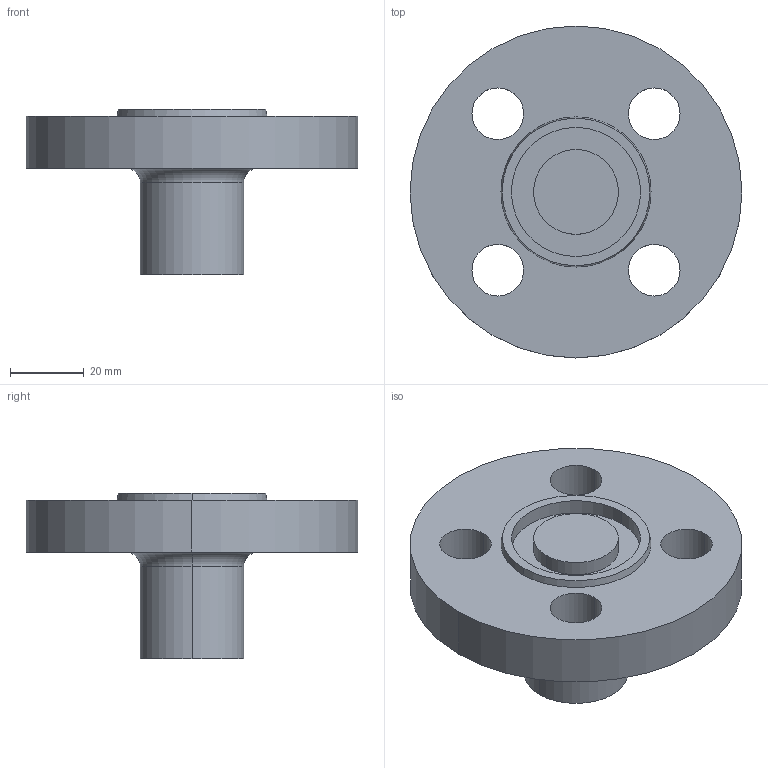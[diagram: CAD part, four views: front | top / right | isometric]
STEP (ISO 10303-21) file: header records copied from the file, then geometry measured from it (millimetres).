
FILE_DESCRIPTION (( 'STEP AP214' ), '1' );
FILE_NAME ('PN40 DN10 Type 21(i) - Type D Face.STEP', '2018-12-29T05:08:16', ( '' ), ( '' ), 'SwSTEP 2.0', 'SolidWorks 2019', '' );
FILE_SCHEMA (( 'AUTOMOTIVE_DESIGN' ));
Length unit declared in the file: millimetre
Products named in the file (1): PN40 DN10 Type 21(i) - Type D Face
Bounding box: 90 x 90 x 45 mm (x, y, z)
Volume: 98993 mm3; surface area: 21262 mm2
Topology: 1 solids, 1 shells, 26 faces, 58 edges, 38 vertices
Faces by surface type: cylinder 16, plane 6, torus 2, cone 2
Entity records: 796 total; most frequent: DIRECTION 152, CARTESIAN_POINT 123, ORIENTED_EDGE 116, AXIS2_PLACEMENT_3D 67, EDGE_CURVE 58, CIRCLE 40, VERTEX_POINT 38, EDGE_LOOP 38
